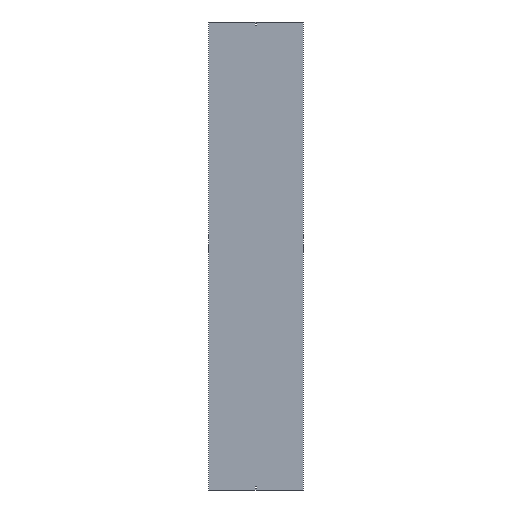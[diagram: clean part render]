
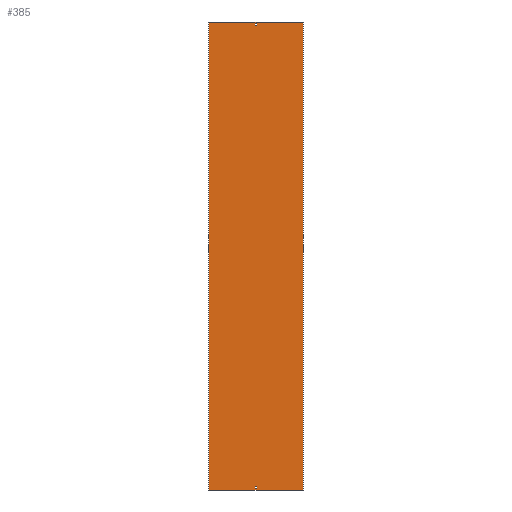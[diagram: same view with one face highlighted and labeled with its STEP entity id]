
A CAD part, front view. The second image highlights one B-rep face of the part: STEP entity #385.
In plain terms, the highlighted planar face has unit normal (0, -1, 0).
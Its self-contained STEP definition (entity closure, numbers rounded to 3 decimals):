
#6 = EDGE_CURVE ( 'NONE', #537, #167, #18, .T. ) ;
#11 = ORIENTED_EDGE ( 'NONE', *, *, #6, .F. ) ;
#14 = VECTOR ( 'NONE', #92, 1000. ) ;
#18 = LINE ( 'NONE', #514, #163 ) ;
#21 = VERTEX_POINT ( 'NONE', #73 ) ;
#28 = CARTESIAN_POINT ( 'NONE',  ( 302., -1.5, 1500. ) ) ;
#29 = LINE ( 'NONE', #168, #14 ) ;
#40 = LINE ( 'NONE', #315, #410 ) ;
#49 = CARTESIAN_POINT ( 'NONE',  ( -303.5, -1.5, 1500. ) ) ;
#56 = EDGE_CURVE ( 'NONE', #576, #537, #288, .T. ) ;
#60 = VECTOR ( 'NONE', #485, 1000. ) ;
#65 = LINE ( 'NONE', #197, #433 ) ;
#68 = EDGE_CURVE ( 'NONE', #21, #164, #65, .T. ) ;
#73 = CARTESIAN_POINT ( 'NONE',  ( -302., -1.5, 1500. ) ) ;
#74 = VECTOR ( 'NONE', #186, 1000. ) ;
#83 = CARTESIAN_POINT ( 'NONE',  ( -3.25, -1.5, 1500. ) ) ;
#90 = VERTEX_POINT ( 'NONE', #511 ) ;
#92 = DIRECTION ( 'NONE',  ( 0., 0., -1. ) ) ;
#94 = CARTESIAN_POINT ( 'NONE',  ( -3.25, -1.5, 1488. ) ) ;
#95 = VERTEX_POINT ( 'NONE', #192 ) ;
#111 = VERTEX_POINT ( 'NONE', #183 ) ;
#115 = ORIENTED_EDGE ( 'NONE', *, *, #56, .F. ) ;
#122 = EDGE_CURVE ( 'NONE', #286, #90, #40, .T. ) ;
#131 = ORIENTED_EDGE ( 'NONE', *, *, #341, .T. ) ;
#147 = VECTOR ( 'NONE', #230, 1000. ) ;
#154 = EDGE_CURVE ( 'NONE', #304, #21, #590, .T. ) ;
#155 = VECTOR ( 'NONE', #173, 1000. ) ;
#162 = VECTOR ( 'NONE', #397, 1000. ) ;
#163 = VECTOR ( 'NONE', #471, 1000. ) ;
#164 = VERTEX_POINT ( 'NONE', #542 ) ;
#167 = VERTEX_POINT ( 'NONE', #94 ) ;
#168 = CARTESIAN_POINT ( 'NONE',  ( 3.25, -1.5, 1500. ) ) ;
#170 = DIRECTION ( 'NONE',  ( -1., 0., 0. ) ) ;
#173 = DIRECTION ( 'NONE',  ( 1., 0., 0. ) ) ;
#174 = LINE ( 'NONE', #357, #176 ) ;
#176 = VECTOR ( 'NONE', #545, 1000. ) ;
#183 = CARTESIAN_POINT ( 'NONE',  ( 3.25, -1.5, -1488. ) ) ;
#186 = DIRECTION ( 'NONE',  ( 0., 0., 1. ) ) ;
#190 = ORIENTED_EDGE ( 'NONE', *, *, #477, .F. ) ;
#192 = CARTESIAN_POINT ( 'NONE',  ( 3.25, -1.5, -1479. ) ) ;
#197 = CARTESIAN_POINT ( 'NONE',  ( -302., -1.5, 1500. ) ) ;
#214 = EDGE_LOOP ( 'NONE', ( #351, #11, #115, #343 ) ) ;
#221 = CARTESIAN_POINT ( 'NONE',  ( -3.25, -1.5, -1488. ) ) ;
#225 = EDGE_CURVE ( 'NONE', #281, #164, #227, .T. ) ;
#227 = LINE ( 'NONE', #506, #147 ) ;
#229 = DIRECTION ( 'NONE',  ( 0., 0., -1. ) ) ;
#230 = DIRECTION ( 'NONE',  ( -1., 0., 0. ) ) ;
#237 = EDGE_CURVE ( 'NONE', #548, #576, #299, .T. ) ;
#244 = EDGE_CURVE ( 'NONE', #167, #548, #445, .T. ) ;
#245 = LINE ( 'NONE', #28, #458 ) ;
#252 = CARTESIAN_POINT ( 'NONE',  ( -3.25, -1.5, 1479. ) ) ;
#262 = CARTESIAN_POINT ( 'NONE',  ( 302., -1.5, -1500. ) ) ;
#274 = ORIENTED_EDGE ( 'NONE', *, *, #122, .T. ) ;
#277 = PLANE ( 'NONE',  #358 ) ;
#281 = VERTEX_POINT ( 'NONE', #262 ) ;
#286 = VERTEX_POINT ( 'NONE', #221 ) ;
#288 = LINE ( 'NONE', #428, #74 ) ;
#299 = LINE ( 'NONE', #490, #60 ) ;
#304 = VERTEX_POINT ( 'NONE', #584 ) ;
#305 = CARTESIAN_POINT ( 'NONE',  ( -303.5, -1.5, -1479. ) ) ;
#309 = VECTOR ( 'NONE', #170, 1000. ) ;
#313 = CARTESIAN_POINT ( 'NONE',  ( -303.5, -1.5, 1500. ) ) ;
#315 = CARTESIAN_POINT ( 'NONE',  ( -3.25, -1.5, 1500. ) ) ;
#335 = CARTESIAN_POINT ( 'NONE',  ( 3.25, -1.5, 1488. ) ) ;
#341 = EDGE_CURVE ( 'NONE', #111, #286, #174, .T. ) ;
#343 = ORIENTED_EDGE ( 'NONE', *, *, #237, .F. ) ;
#351 = ORIENTED_EDGE ( 'NONE', *, *, #244, .F. ) ;
#357 = CARTESIAN_POINT ( 'NONE',  ( -303.5, -1.5, -1488. ) ) ;
#358 = AXIS2_PLACEMENT_3D ( 'NONE', #49, #424, #229 ) ;
#361 = ORIENTED_EDGE ( 'NONE', *, *, #579, .T. ) ;
#382 = DIRECTION ( 'NONE',  ( 0., 0., -1. ) ) ;
#383 = DIRECTION ( 'NONE',  ( 0., 0., -1. ) ) ;
#385 = ADVANCED_FACE ( 'NONE', ( #461, #567, #508 ), #277, .T. ) ;
#389 = CARTESIAN_POINT ( 'NONE',  ( 3.25, -1.5, 1479. ) ) ;
#396 = ORIENTED_EDGE ( 'NONE', *, *, #154, .T. ) ;
#397 = DIRECTION ( 'NONE',  ( 0., 0., -1. ) ) ;
#410 = VECTOR ( 'NONE', #459, 1000. ) ;
#424 = DIRECTION ( 'NONE',  ( 0., -1., 0. ) ) ;
#428 = CARTESIAN_POINT ( 'NONE',  ( 3.25, -1.5, 1500. ) ) ;
#433 = VECTOR ( 'NONE', #383, 1000. ) ;
#438 = ORIENTED_EDGE ( 'NONE', *, *, #588, .T. ) ;
#445 = LINE ( 'NONE', #83, #162 ) ;
#458 = VECTOR ( 'NONE', #382, 1000. ) ;
#459 = DIRECTION ( 'NONE',  ( 0., 0., 1. ) ) ;
#461 = FACE_BOUND ( 'NONE', #214, .T. ) ;
#471 = DIRECTION ( 'NONE',  ( -1., 0., 0. ) ) ;
#474 = EDGE_LOOP ( 'NONE', ( #131, #274, #361, #438 ) ) ;
#477 = EDGE_CURVE ( 'NONE', #304, #281, #245, .T. ) ;
#480 = ORIENTED_EDGE ( 'NONE', *, *, #225, .F. ) ;
#485 = DIRECTION ( 'NONE',  ( 1., 0., 0. ) ) ;
#488 = EDGE_LOOP ( 'NONE', ( #480, #190, #396, #507 ) ) ;
#490 = CARTESIAN_POINT ( 'NONE',  ( -303.5, -1.5, 1479. ) ) ;
#497 = LINE ( 'NONE', #305, #155 ) ;
#506 = CARTESIAN_POINT ( 'NONE',  ( -303.5, -1.5, -1500. ) ) ;
#507 = ORIENTED_EDGE ( 'NONE', *, *, #68, .T. ) ;
#508 = FACE_BOUND ( 'NONE', #474, .T. ) ;
#511 = CARTESIAN_POINT ( 'NONE',  ( -3.25, -1.5, -1479. ) ) ;
#514 = CARTESIAN_POINT ( 'NONE',  ( -303.5, -1.5, 1488. ) ) ;
#537 = VERTEX_POINT ( 'NONE', #335 ) ;
#542 = CARTESIAN_POINT ( 'NONE',  ( -302., -1.5, -1500. ) ) ;
#545 = DIRECTION ( 'NONE',  ( -1., 0., 0. ) ) ;
#548 = VERTEX_POINT ( 'NONE', #252 ) ;
#567 = FACE_OUTER_BOUND ( 'NONE', #488, .T. ) ;
#576 = VERTEX_POINT ( 'NONE', #389 ) ;
#579 = EDGE_CURVE ( 'NONE', #90, #95, #497, .T. ) ;
#584 = CARTESIAN_POINT ( 'NONE',  ( 302., -1.5, 1500. ) ) ;
#588 = EDGE_CURVE ( 'NONE', #95, #111, #29, .T. ) ;
#590 = LINE ( 'NONE', #313, #309 ) ;
